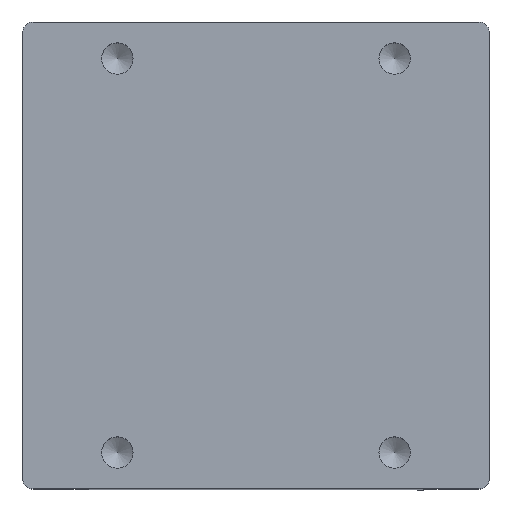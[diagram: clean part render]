
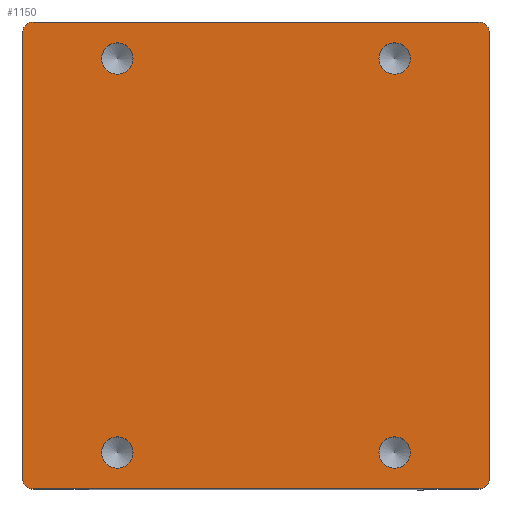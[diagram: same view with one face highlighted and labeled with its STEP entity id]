
A CAD part, top view. The second image highlights one B-rep face of the part: STEP entity #1150.
In plain terms, the highlighted planar face has unit normal (0, 0, 1).
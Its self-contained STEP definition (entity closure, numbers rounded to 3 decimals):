
#365=PLANE('',#4556);
#480=LINE('',#6750,#705);
#481=LINE('',#6755,#706);
#482=LINE('',#6759,#707);
#483=LINE('',#6763,#708);
#705=VECTOR('',#5048,1.);
#706=VECTOR('',#5051,1.);
#707=VECTOR('',#5054,1.);
#708=VECTOR('',#5057,1.);
#1150=ADVANCED_FACE('',(#1536,#1537,#1538,#1539,#1540),#365,.F.);
#1536=FACE_BOUND('',#1627,.T.);
#1537=FACE_BOUND('',#1628,.T.);
#1538=FACE_BOUND('',#1629,.T.);
#1539=FACE_BOUND('',#1630,.T.);
#1540=FACE_BOUND('',#1631,.T.);
#1627=EDGE_LOOP('',(#1977,#1978,#1979,#1980,#1981,#1982,#1983,#1984));
#1628=EDGE_LOOP('',(#1985));
#1629=EDGE_LOOP('',(#1986));
#1630=EDGE_LOOP('',(#1987));
#1631=EDGE_LOOP('',(#1988));
#1977=ORIENTED_EDGE('',*,*,#3695,.T.);
#1978=ORIENTED_EDGE('',*,*,#3696,.T.);
#1979=ORIENTED_EDGE('',*,*,#3697,.T.);
#1980=ORIENTED_EDGE('',*,*,#3698,.T.);
#1981=ORIENTED_EDGE('',*,*,#3699,.T.);
#1982=ORIENTED_EDGE('',*,*,#3700,.T.);
#1983=ORIENTED_EDGE('',*,*,#3701,.T.);
#1984=ORIENTED_EDGE('',*,*,#3702,.T.);
#1985=ORIENTED_EDGE('',*,*,#3659,.T.);
#1986=ORIENTED_EDGE('',*,*,#3657,.T.);
#1987=ORIENTED_EDGE('',*,*,#3655,.T.);
#1988=ORIENTED_EDGE('',*,*,#3653,.T.);
#3231=VERTEX_POINT('',#6103);
#3234=VERTEX_POINT('',#6110);
#3237=VERTEX_POINT('',#6117);
#3240=VERTEX_POINT('',#6124);
#3277=VERTEX_POINT('',#6751);
#3278=VERTEX_POINT('',#6752);
#3279=VERTEX_POINT('',#6754);
#3280=VERTEX_POINT('',#6756);
#3281=VERTEX_POINT('',#6758);
#3282=VERTEX_POINT('',#6760);
#3283=VERTEX_POINT('',#6762);
#3284=VERTEX_POINT('',#6764);
#3653=EDGE_CURVE('',#3231,#3231,#4305,.T.);
#3655=EDGE_CURVE('',#3234,#3234,#4307,.T.);
#3657=EDGE_CURVE('',#3237,#3237,#4309,.T.);
#3659=EDGE_CURVE('',#3240,#3240,#4311,.T.);
#3695=EDGE_CURVE('',#3277,#3278,#480,.T.);
#3696=EDGE_CURVE('',#3278,#3279,#4323,.T.);
#3697=EDGE_CURVE('',#3279,#3280,#481,.T.);
#3698=EDGE_CURVE('',#3280,#3281,#4324,.T.);
#3699=EDGE_CURVE('',#3281,#3282,#482,.T.);
#3700=EDGE_CURVE('',#3282,#3283,#4325,.T.);
#3701=EDGE_CURVE('',#3283,#3284,#483,.T.);
#3702=EDGE_CURVE('',#3284,#3277,#4326,.T.);
#4305=CIRCLE('',#4518,2.15);
#4307=CIRCLE('',#4522,2.15);
#4309=CIRCLE('',#4526,2.15);
#4311=CIRCLE('',#4530,2.15);
#4323=CIRCLE('',#4552,1.5);
#4324=CIRCLE('',#4553,1.5);
#4325=CIRCLE('',#4554,1.5);
#4326=CIRCLE('',#4555,1.5);
#4518=AXIS2_PLACEMENT_3D('',#6102,#4972,#4973);
#4522=AXIS2_PLACEMENT_3D('',#6109,#4980,#4981);
#4526=AXIS2_PLACEMENT_3D('',#6116,#4988,#4989);
#4530=AXIS2_PLACEMENT_3D('',#6123,#4996,#4997);
#4552=AXIS2_PLACEMENT_3D('',#6753,#5049,#5050);
#4553=AXIS2_PLACEMENT_3D('',#6757,#5052,#5053);
#4554=AXIS2_PLACEMENT_3D('',#6761,#5055,#5056);
#4555=AXIS2_PLACEMENT_3D('',#6765,#5058,#5059);
#4556=AXIS2_PLACEMENT_3D('',#6766,#5060,#5061);
#4972=DIRECTION('',(0.,0.,-1.));
#4973=DIRECTION('',(-1.,0.,0.));
#4980=DIRECTION('',(0.,0.,-1.));
#4981=DIRECTION('',(-1.,0.,0.));
#4988=DIRECTION('',(0.,0.,-1.));
#4989=DIRECTION('',(-1.,0.,0.));
#4996=DIRECTION('',(0.,0.,-1.));
#4997=DIRECTION('',(-1.,0.,0.));
#5048=DIRECTION('',(0.,1.,0.));
#5049=DIRECTION('',(0.,0.,1.));
#5050=DIRECTION('',(1.,0.,0.));
#5051=DIRECTION('',(-1.,0.,0.));
#5052=DIRECTION('',(0.,0.,1.));
#5053=DIRECTION('',(1.,0.,0.));
#5054=DIRECTION('',(0.,-1.,0.));
#5055=DIRECTION('',(0.,0.,1.));
#5056=DIRECTION('',(1.,0.,0.));
#5057=DIRECTION('',(1.,0.,0.));
#5058=DIRECTION('',(0.,0.,1.));
#5059=DIRECTION('',(1.,0.,0.));
#5060=DIRECTION('',(0.,0.,-1.));
#5061=DIRECTION('',(-1.,0.,0.));
#6102=CARTESIAN_POINT('',(19.,-27.,32.2));
#6103=CARTESIAN_POINT('',(16.85,-27.,32.2));
#6109=CARTESIAN_POINT('',(19.,27.,32.2));
#6110=CARTESIAN_POINT('',(16.85,27.,32.2));
#6116=CARTESIAN_POINT('',(-19.,27.,32.2));
#6117=CARTESIAN_POINT('',(-21.15,27.,32.2));
#6123=CARTESIAN_POINT('',(-19.,-27.,32.2));
#6124=CARTESIAN_POINT('',(-21.15,-27.,32.2));
#6750=CARTESIAN_POINT('',(32.,-30.5,32.2));
#6751=CARTESIAN_POINT('',(32.,-30.5,32.2));
#6752=CARTESIAN_POINT('',(32.,30.5,32.2));
#6753=CARTESIAN_POINT('',(30.5,30.5,32.2));
#6754=CARTESIAN_POINT('',(30.5,32.,32.2));
#6755=CARTESIAN_POINT('',(30.5,32.,32.2));
#6756=CARTESIAN_POINT('',(-30.5,32.,32.2));
#6757=CARTESIAN_POINT('',(-30.5,30.5,32.2));
#6758=CARTESIAN_POINT('',(-32.,30.5,32.2));
#6759=CARTESIAN_POINT('',(-32.,30.5,32.2));
#6760=CARTESIAN_POINT('',(-32.,-30.5,32.2));
#6761=CARTESIAN_POINT('',(-30.5,-30.5,32.2));
#6762=CARTESIAN_POINT('',(-30.5,-32.,32.2));
#6763=CARTESIAN_POINT('',(-30.5,-32.,32.2));
#6764=CARTESIAN_POINT('',(30.5,-32.,32.2));
#6765=CARTESIAN_POINT('',(30.5,-30.5,32.2));
#6766=CARTESIAN_POINT('',(0.,0.,32.2));
